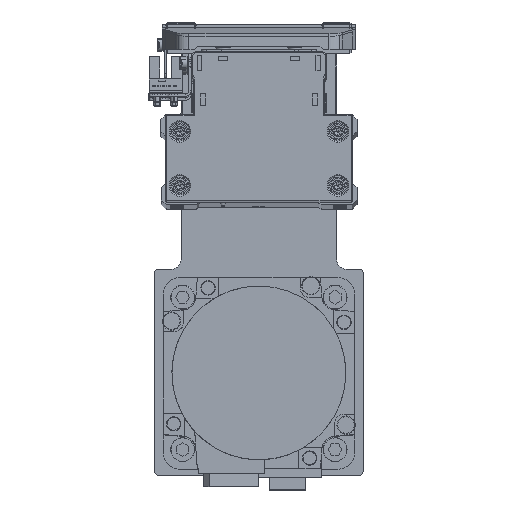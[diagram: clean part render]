
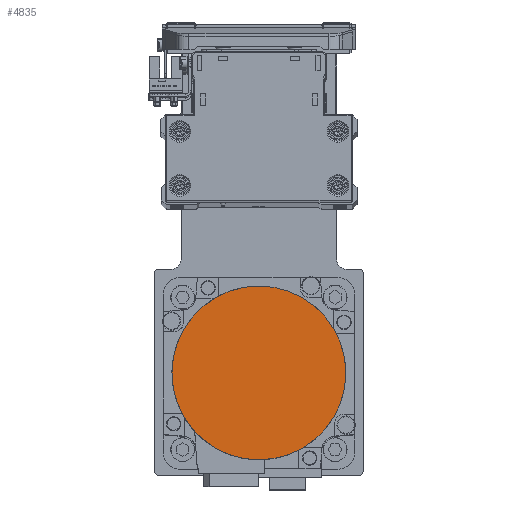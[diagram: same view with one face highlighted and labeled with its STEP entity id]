
A CAD part, top view. The second image highlights one B-rep face of the part: STEP entity #4835.
In plain terms, the highlighted planar face has unit normal (0, 0, 1) as drawn and (0, 0, -1) by its records, which use the part's own axes.
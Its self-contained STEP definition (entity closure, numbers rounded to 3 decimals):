
#338 = VERTEX_POINT ( 'NONE', #31330 ) ;
#4181 = EDGE_CURVE ( 'NONE', #338, #20101, #24561, .T. ) ;
#4835 = ADVANCED_FACE ( 'NONE', ( #8977 ), #21395, .F. ) ;
#4906 = CARTESIAN_POINT ( 'NONE',  ( 0., 0., -122.2 ) ) ;
#5897 = DIRECTION ( 'NONE',  ( 0., 0., 1. ) ) ;
#6999 = AXIS2_PLACEMENT_3D ( 'NONE', #4906, #17363, #29771 ) ;
#7556 = ORIENTED_EDGE ( 'NONE', *, *, #4181, .F. ) ;
#8977 = FACE_OUTER_BOUND ( 'NONE', #20684, .T. ) ;
#9789 = ORIENTED_EDGE ( 'NONE', *, *, #15167, .F. ) ;
#11118 = CARTESIAN_POINT ( 'NONE',  ( 0., -36.3, -122.2 ) ) ;
#14187 = AXIS2_PLACEMENT_3D ( 'NONE', #15006, #27401, #39823 ) ;
#15006 = CARTESIAN_POINT ( 'NONE',  ( 0., 0., -122.2 ) ) ;
#15167 = EDGE_CURVE ( 'NONE', #20101, #338, #31722, .T. ) ;
#17363 = DIRECTION ( 'NONE',  ( 0., 0., 1. ) ) ;
#18342 = DIRECTION ( 'NONE',  ( 1., 0., 0. ) ) ;
#20101 = VERTEX_POINT ( 'NONE', #11118 ) ;
#20684 = EDGE_LOOP ( 'NONE', ( #7556, #9789 ) ) ;
#21395 = PLANE ( 'NONE',  #23845 ) ;
#23845 = AXIS2_PLACEMENT_3D ( 'NONE', #33795, #5897, #18342 ) ;
#24561 = CIRCLE ( 'NONE', #6999, 36.3 ) ;
#27401 = DIRECTION ( 'NONE',  ( 0., 0., 1. ) ) ;
#29771 = DIRECTION ( 'NONE',  ( 0., 1., 0. ) ) ;
#31330 = CARTESIAN_POINT ( 'NONE',  ( 0., 36.3, -122.2 ) ) ;
#31722 = CIRCLE ( 'NONE', #14187, 36.3 ) ;
#33795 = CARTESIAN_POINT ( 'NONE',  ( 0., 0., -122.2 ) ) ;
#39823 = DIRECTION ( 'NONE',  ( 0., -1., 0. ) ) ;
